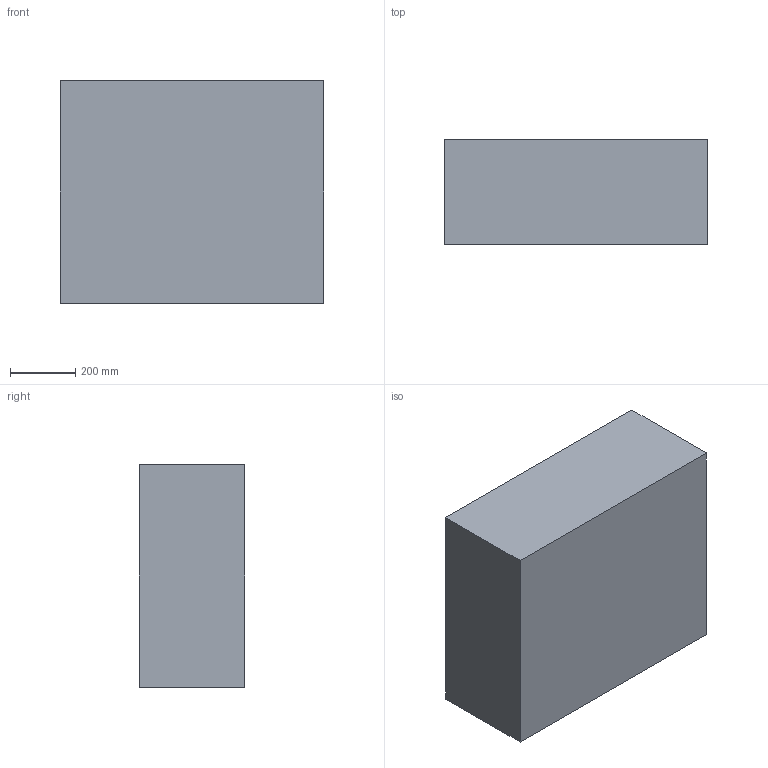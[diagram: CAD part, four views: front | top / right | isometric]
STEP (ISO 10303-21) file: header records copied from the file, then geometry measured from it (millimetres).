
FILE_DESCRIPTION (( 'STEP AP214' ), '1' );
FILE_NAME ('1690E - 932 BOTTOM PID 2-21-2025.STEP', '2025-05-22T05:29:55', ( '' ), ( '' ), 'SwSTEP 2.0', 'SolidWorks 2021', '' );
FILE_SCHEMA (( 'AUTOMOTIVE_DESIGN' ));
Length unit declared in the file: inch
Products named in the file (1): 1690E - 932 BOTTOM PID 2-21-2025
Bounding box: 810.51 x 323.85 x 683.51 mm (x, y, z)
Volume: 24527255.8 mm3; surface area: 2886741.3 mm2
Topology: 1 solids, 1 shells, 136 faces, 323 edges, 178 vertices
Faces by surface type: bspline 46, plane 45, cylinder 41, sphere 4
Entity records: 5190 total; most frequent: CARTESIAN_POINT 2441, ORIENTED_EDGE 622, DIRECTION 497, EDGE_CURVE 311, VERTEX_POINT 178, AXIS2_PLACEMENT_3D 167, LINE 163, VECTOR 163
